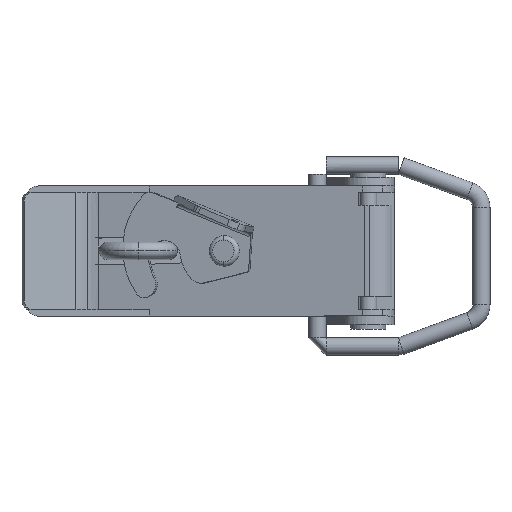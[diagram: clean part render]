
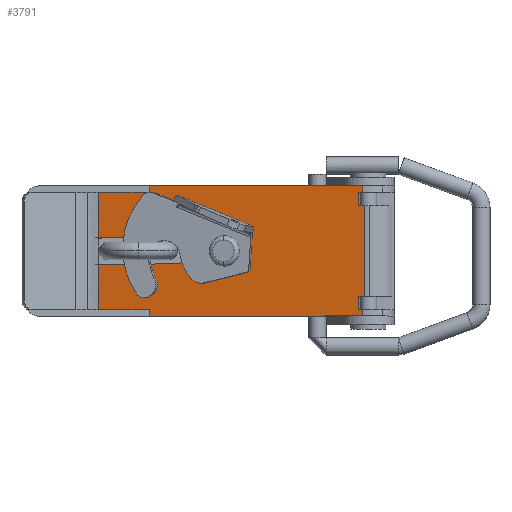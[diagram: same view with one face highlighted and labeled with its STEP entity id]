
A CAD part, top view. The second image highlights one B-rep face of the part: STEP entity #3791.
In plain terms, the highlighted planar face has unit normal (-0.208, 0, 0.978) as drawn and (0, 1, 0) by its records, which use the part's own axes.
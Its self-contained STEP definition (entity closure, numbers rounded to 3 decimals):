
#1755=CARTESIAN_POINT('',(25.821,-3.058,-13.0));
#1756=VERTEX_POINT('',#1755);
#1764=CARTESIAN_POINT('',(25.821,-3.058,-2.5));
#1765=VERTEX_POINT('',#1764);
#1766=CARTESIAN_POINT('',(25.821,-3.058,-13.0));
#1767=DIRECTION('',(0.0,0.0,1.0));
#1768=VECTOR('',#1767,10.5);
#1769=LINE('',#1766,#1768);
#1770=EDGE_CURVE('',#1756,#1765,#1769,.T.);
#1772=CARTESIAN_POINT('',(25.821,-3.058,3.5));
#1773=VERTEX_POINT('',#1772);
#1780=CARTESIAN_POINT('',(25.821,-3.058,14.0));
#1781=VERTEX_POINT('',#1780);
#1782=CARTESIAN_POINT('',(25.821,-3.058,3.5));
#1783=DIRECTION('',(0.0,0.0,1.0));
#1784=VECTOR('',#1783,10.5);
#1785=LINE('',#1782,#1784);
#1786=EDGE_CURVE('',#1773,#1781,#1785,.T.);
#2443=CARTESIAN_POINT('',(4.821,-3.058,0.5));
#2444=VERTEX_POINT('',#2443);
#2460=CARTESIAN_POINT('',(7.821,-3.058,-2.5));
#2461=VERTEX_POINT('',#2460);
#2468=CARTESIAN_POINT('',(7.821,-3.058,0.5));
#2469=DIRECTION('',(0.0,-1.0,0.0));
#2470=DIRECTION('',(-1.0,0.0,0.0));
#2471=AXIS2_PLACEMENT_3D('',#2468,#2469,#2470);
#2472=CIRCLE('',#2471,3.0);
#2473=EDGE_CURVE('',#2444,#2461,#2472,.T.);
#2530=CARTESIAN_POINT('',(-5.678,-3.058,0.5));
#2531=VERTEX_POINT('',#2530);
#2547=CARTESIAN_POINT('',(-2.678,-3.058,0.5));
#2548=VERTEX_POINT('',#2547);
#2555=CARTESIAN_POINT('',(-4.178,-3.058,0.5));
#2556=DIRECTION('',(0.0,-1.0,0.0));
#2557=DIRECTION('',(-1.0,0.0,0.0));
#2558=AXIS2_PLACEMENT_3D('',#2555,#2556,#2557);
#2559=CIRCLE('',#2558,1.5);
#2560=EDGE_CURVE('',#2531,#2548,#2559,.T.);
#2622=CARTESIAN_POINT('',(-36.5,-3.058,15.5));
#2623=VERTEX_POINT('',#2622);
#2631=CARTESIAN_POINT('',(-36.5,-3.058,14.));
#2632=VERTEX_POINT('',#2631);
#2633=CARTESIAN_POINT('',(-36.5,-3.058,15.5));
#2634=DIRECTION('',(0.0,0.,-1.));
#2635=VECTOR('',#2634,1.5);
#2636=LINE('',#2633,#2635);
#2637=EDGE_CURVE('',#2623,#2632,#2636,.T.);
#2706=CARTESIAN_POINT('',(-36.5,-3.058,-13.0));
#2707=VERTEX_POINT('',#2706);
#2715=CARTESIAN_POINT('',(-36.5,-3.058,-14.5));
#2716=VERTEX_POINT('',#2715);
#2717=CARTESIAN_POINT('',(-36.5,-3.058,-13.0));
#2718=DIRECTION('',(0.0,0.,-1.));
#2719=VECTOR('',#2718,1.5);
#2720=LINE('',#2717,#2719);
#2721=EDGE_CURVE('',#2707,#2716,#2720,.T.);
#2772=CARTESIAN_POINT('',(13.821,-3.058,-14.5));
#2773=VERTEX_POINT('',#2772);
#2774=CARTESIAN_POINT('',(13.821,-3.058,-14.5));
#2775=DIRECTION('',(-1.0,0.0,0.0));
#2776=VECTOR('',#2775,50.321);
#2777=LINE('',#2774,#2776);
#2778=EDGE_CURVE('',#2773,#2716,#2777,.T.);
#2922=CARTESIAN_POINT('',(-35.5,-3.058,14.));
#2923=VERTEX_POINT('',#2922);
#2924=CARTESIAN_POINT('',(-35.5,-3.058,14.));
#2925=DIRECTION('',(-1.,0.,0.0));
#2926=VECTOR('',#2925,1.);
#2927=LINE('',#2924,#2926);
#2928=EDGE_CURVE('',#2923,#2632,#2927,.T.);
#3132=CARTESIAN_POINT('',(-35.5,-3.058,-10.0));
#3133=VERTEX_POINT('',#3132);
#3134=CARTESIAN_POINT('',(-36.9,-3.058,-10.0));
#3135=VERTEX_POINT('',#3134);
#3136=CARTESIAN_POINT('',(-35.5,-3.058,-10.0));
#3137=DIRECTION('',(-1.,0.,0.0));
#3138=VECTOR('',#3137,1.4);
#3139=LINE('',#3136,#3138);
#3140=EDGE_CURVE('',#3133,#3135,#3139,.T.);
#3180=CARTESIAN_POINT('',(-36.9,-3.058,11.));
#3181=VERTEX_POINT('',#3180);
#3189=CARTESIAN_POINT('',(-36.9,-3.058,-10.0));
#3190=DIRECTION('',(0.0,0.0,1.0));
#3191=VECTOR('',#3190,21.);
#3192=LINE('',#3189,#3191);
#3193=EDGE_CURVE('',#3135,#3181,#3192,.T.);
#3205=CARTESIAN_POINT('',(-4.178,-3.058,0.5));
#3206=DIRECTION('',(0.0,-1.0,0.0));
#3207=DIRECTION('',(-1.0,0.0,0.0));
#3208=AXIS2_PLACEMENT_3D('',#3205,#3206,#3207);
#3209=CIRCLE('',#3208,1.5);
#3210=EDGE_CURVE('',#2548,#2531,#3209,.T.);
#3262=CARTESIAN_POINT('',(7.821,-3.058,-2.5));
#3263=DIRECTION('',(1.0,0.0,0.0));
#3264=VECTOR('',#3263,18.);
#3265=LINE('',#3262,#3264);
#3266=EDGE_CURVE('',#2461,#1765,#3265,.T.);
#3297=CARTESIAN_POINT('',(7.821,-3.058,3.5));
#3298=VERTEX_POINT('',#3297);
#3299=CARTESIAN_POINT('',(7.821,-3.058,0.5));
#3300=DIRECTION('',(0.0,-1.0,0.0));
#3301=DIRECTION('',(-1.0,0.0,0.0));
#3302=AXIS2_PLACEMENT_3D('',#3299,#3300,#3301);
#3303=CIRCLE('',#3302,3.0);
#3304=EDGE_CURVE('',#3298,#2444,#3303,.T.);
#3324=CARTESIAN_POINT('',(25.821,-3.058,3.5));
#3325=DIRECTION('',(-1.0,0.0,0.0));
#3326=VECTOR('',#3325,18.);
#3327=LINE('',#3324,#3326);
#3328=EDGE_CURVE('',#1773,#3298,#3327,.T.);
#3533=CARTESIAN_POINT('',(13.821,-3.058,-13.));
#3534=VERTEX_POINT('',#3533);
#3535=CARTESIAN_POINT('',(13.821,-3.058,-13.));
#3536=DIRECTION('',(0.0,0.0,-1.0));
#3537=VECTOR('',#3536,1.5);
#3538=LINE('',#3535,#3537);
#3539=EDGE_CURVE('',#3534,#2773,#3538,.T.);
#3631=CARTESIAN_POINT('',(13.821,-3.058,15.5));
#3632=VERTEX_POINT('',#3631);
#3639=CARTESIAN_POINT('',(-36.5,-3.058,15.5));
#3640=DIRECTION('',(1.0,0.0,0.0));
#3641=VECTOR('',#3640,50.321);
#3642=LINE('',#3639,#3641);
#3643=EDGE_CURVE('',#2623,#3632,#3642,.T.);
#3718=CARTESIAN_POINT('',(-42.5,-3.058,-13.0));
#3719=DIRECTION('',(0.0,1.0,0.0));
#3720=DIRECTION('',(0.0,0.0,1.0));
#3721=AXIS2_PLACEMENT_3D('',#3718,#3719,#3720);
#3722=PLANE('',#3721);
#3723=ORIENTED_EDGE('',*,*,#3193,.T.);
#3724=CARTESIAN_POINT('',(-35.5,-3.058,11.));
#3725=VERTEX_POINT('',#3724);
#3726=CARTESIAN_POINT('',(-36.9,-3.058,11.));
#3727=DIRECTION('',(1.,0.,0.0));
#3728=VECTOR('',#3727,1.4);
#3729=LINE('',#3726,#3728);
#3730=EDGE_CURVE('',#3181,#3725,#3729,.T.);
#3731=ORIENTED_EDGE('',*,*,#3730,.T.);
#3732=CARTESIAN_POINT('',(-35.5,-3.058,11.));
#3733=DIRECTION('',(0.0,0.0,1.0));
#3734=VECTOR('',#3733,3.0);
#3735=LINE('',#3732,#3734);
#3736=EDGE_CURVE('',#3725,#2923,#3735,.T.);
#3737=ORIENTED_EDGE('',*,*,#3736,.T.);
#3738=ORIENTED_EDGE('',*,*,#2928,.T.);
#3739=ORIENTED_EDGE('',*,*,#2637,.F.);
#3740=ORIENTED_EDGE('',*,*,#3643,.T.);
#3741=CARTESIAN_POINT('',(13.821,-3.058,14.));
#3742=VERTEX_POINT('',#3741);
#3743=CARTESIAN_POINT('',(13.821,-3.058,14.));
#3744=DIRECTION('',(0.0,0.0,1.0));
#3745=VECTOR('',#3744,1.5);
#3746=LINE('',#3743,#3745);
#3747=EDGE_CURVE('',#3742,#3632,#3746,.T.);
#3748=ORIENTED_EDGE('',*,*,#3747,.F.);
#3749=CARTESIAN_POINT('',(13.821,-3.058,14.));
#3750=DIRECTION('',(1.,0.,0.));
#3751=VECTOR('',#3750,12.);
#3752=LINE('',#3749,#3751);
#3753=EDGE_CURVE('',#3742,#1781,#3752,.T.);
#3754=ORIENTED_EDGE('',*,*,#3753,.T.);
#3755=ORIENTED_EDGE('',*,*,#1786,.F.);
#3756=ORIENTED_EDGE('',*,*,#3328,.T.);
#3757=ORIENTED_EDGE('',*,*,#3304,.T.);
#3758=ORIENTED_EDGE('',*,*,#2473,.T.);
#3759=ORIENTED_EDGE('',*,*,#3266,.T.);
#3760=ORIENTED_EDGE('',*,*,#1770,.F.);
#3761=CARTESIAN_POINT('',(13.821,-3.058,-13.));
#3762=DIRECTION('',(1.,0.,0.));
#3763=VECTOR('',#3762,12.);
#3764=LINE('',#3761,#3763);
#3765=EDGE_CURVE('',#3534,#1756,#3764,.T.);
#3766=ORIENTED_EDGE('',*,*,#3765,.F.);
#3767=ORIENTED_EDGE('',*,*,#3539,.T.);
#3768=ORIENTED_EDGE('',*,*,#2778,.T.);
#3769=ORIENTED_EDGE('',*,*,#2721,.F.);
#3770=CARTESIAN_POINT('',(-35.5,-3.058,-13.0));
#3771=VERTEX_POINT('',#3770);
#3772=CARTESIAN_POINT('',(-36.5,-3.058,-13.0));
#3773=DIRECTION('',(1.,0.,0.0));
#3774=VECTOR('',#3773,1.);
#3775=LINE('',#3772,#3774);
#3776=EDGE_CURVE('',#2707,#3771,#3775,.T.);
#3777=ORIENTED_EDGE('',*,*,#3776,.T.);
#3778=CARTESIAN_POINT('',(-35.5,-3.058,-13.0));
#3779=DIRECTION('',(0.0,0.0,1.0));
#3780=VECTOR('',#3779,3.0);
#3781=LINE('',#3778,#3780);
#3782=EDGE_CURVE('',#3771,#3133,#3781,.T.);
#3783=ORIENTED_EDGE('',*,*,#3782,.T.);
#3784=ORIENTED_EDGE('',*,*,#3140,.T.);
#3785=EDGE_LOOP('',(#3723,#3731,#3737,#3738,#3739,#3740,#3748,#3754,#3755,#3756,#3757,#3758,#3759,#3760,#3766,#3767,#3768,#3769,#3777,#3783,#3784));
#3786=FACE_OUTER_BOUND('',#3785,.T.);
#3787=ORIENTED_EDGE('',*,*,#2560,.T.);
#3788=ORIENTED_EDGE('',*,*,#3210,.T.);
#3789=EDGE_LOOP('',(#3787,#3788));
#3790=FACE_BOUND('',#3789,.T.);
#3791=ADVANCED_FACE('',(#3786,#3790),#3722,.T.);
